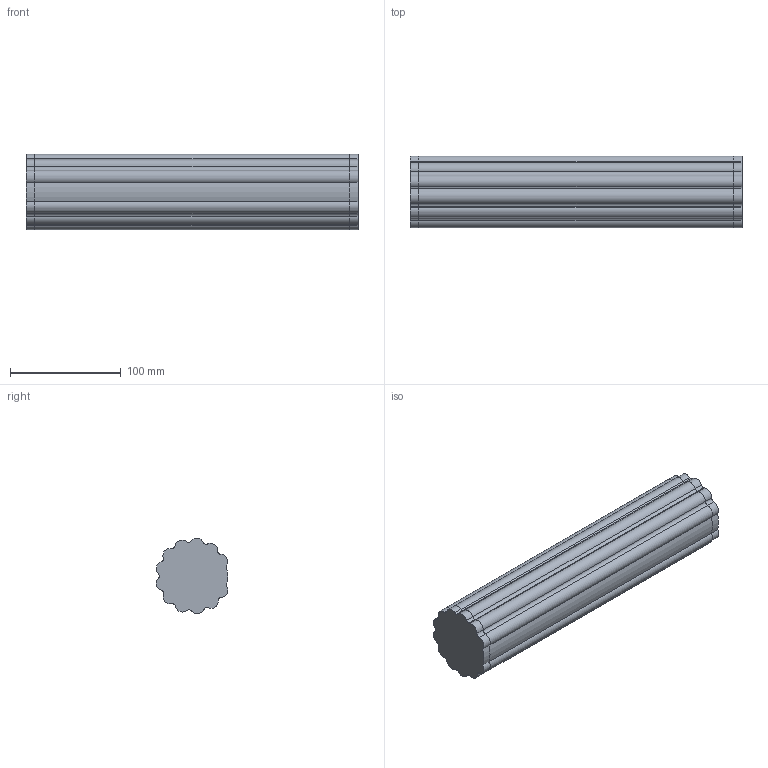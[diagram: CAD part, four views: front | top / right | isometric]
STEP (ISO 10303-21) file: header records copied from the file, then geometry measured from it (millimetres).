
FILE_DESCRIPTION (( 'STEP AP214' ), '1' );
FILE_NAME ('A1314.STEP', '2023-07-20T15:10:51', ( '' ), ( '' ), 'SwSTEP 2.0', 'SolidWorks 2018', '' );
FILE_SCHEMA (( 'AUTOMOTIVE_DESIGN' ));
Length unit declared in the file: millimetre
Products named in the file (1): A1314
Bounding box: 300 x 64.79 x 68.27 mm (x, y, z)
Volume: 1008374.6 mm3; surface area: 101850.5 mm2
Topology: 4 solids, 4 shells, 107 faces, 297 edges, 198 vertices
Faces by surface type: cylinder 93, plane 14
Entity records: 3598 total; most frequent: DIRECTION 699, CARTESIAN_POINT 603, ORIENTED_EDGE 594, EDGE_CURVE 297, AXIS2_PLACEMENT_3D 294, VERTEX_POINT 198, CIRCLE 186, LINE 111
